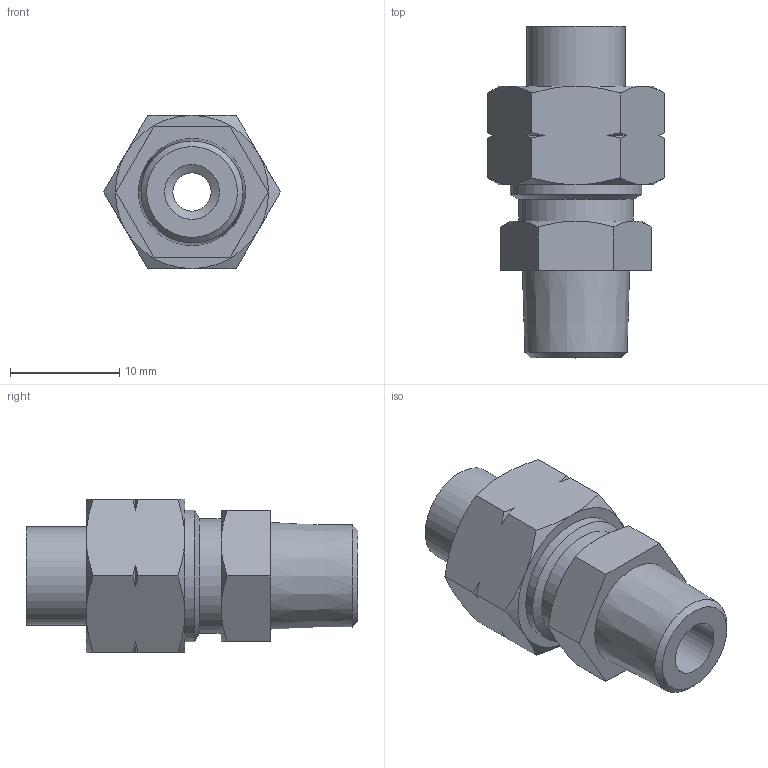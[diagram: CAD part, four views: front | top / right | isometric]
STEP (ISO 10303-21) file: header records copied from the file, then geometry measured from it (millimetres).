
FILE_DESCRIPTION((''),'2;1');
FILE_NAME('D:\INVENTOR\[New Inventor]\CDC Products 3D Ass''y\Two-Touch Fittings\Metric\CC\CC8-5--01.stp','2009-02-25T17:29:39',('Microsoft'),(''),'Autodesk Inventor 2008','Autodesk Inventor 2008','');
FILE_SCHEMA(('AUTOMOTIVE_DESIGN { 1 0 10303 214 1 1 1 1 }'));
Length unit declared in the file: millimetre
Products named in the file (1): CC8-5--01
Bounding box: 16.17 x 30.33 x 14 mm (x, y, z)
Volume: 2309.6 mm3; surface area: 2327 mm2
Topology: 1 solids, 1 shells, 62 faces, 138 edges, 84 vertices
Faces by surface type: cone 33, plane 20, cylinder 6, bspline 2, torus 1
Full cylindrical faces by diameter (mm): 3.5 x1, 4.7 x1, 8.2 x1, 9 x1, 10.5 x1, 12 x1
Entity records: 1628 total; most frequent: CARTESIAN_POINT 427, ORIENTED_EDGE 252, DIRECTION 230, EDGE_CURVE 126, AXIS2_PLACEMENT_3D 103, VERTEX_POINT 84, EDGE_LOOP 82, FACE_OUTER_BOUND 62
